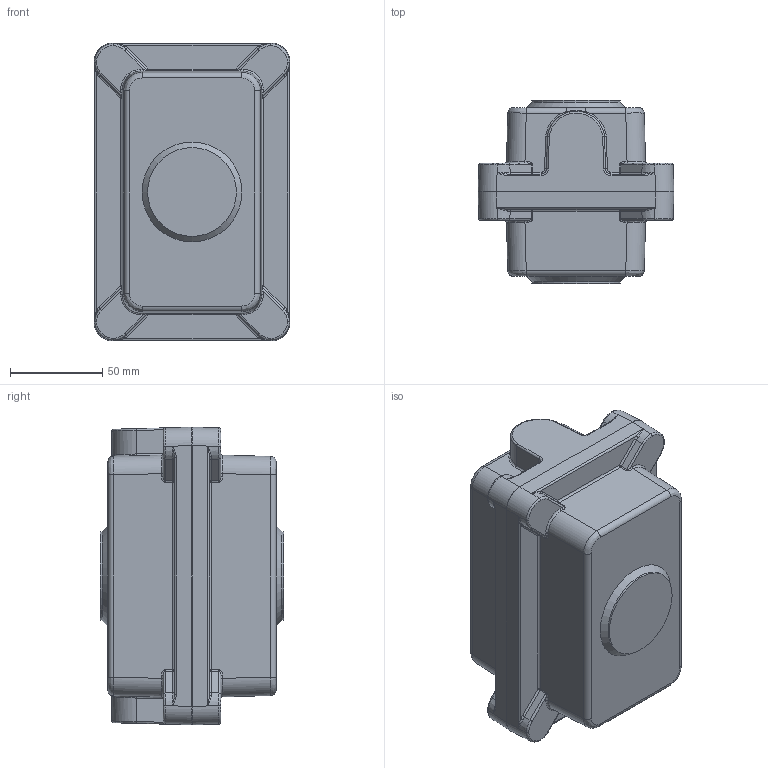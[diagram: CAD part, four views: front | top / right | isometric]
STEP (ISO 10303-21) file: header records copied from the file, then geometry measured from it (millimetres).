
FILE_DESCRIPTION(('STEP AP203'), '1');
FILE_NAME('栖闉罻_扻豵鵨 珃2-01', '', ('UNSPECIFIED'), ('UNSPECIFIED'), 'C3D Converter', 'C3D Toolkit', '');
FILE_SCHEMA(('CONFIG_CONTROL_DESIGN'));
Length unit declared in the file: millimetre
Products named in the file (3): ПУ2-01 (РЧЗ); ПУ2-02 (РЧЗ)
Assembly tree (2 placements, depth 2):
  (unnamed)
    ПУ2-01 (РЧЗ)
    ПУ2-02 (РЧЗ)
Bounding box: 105.9 x 99 x 160.95 mm (x, y, z)
Volume: 560128.5 mm3; surface area: 133391 mm2
Topology: 2 solids, 2 shells, 481 faces, 1142 edges, 637 vertices
Faces by surface type: cylinder 188, bspline 142, plane 98, torus 34, cone 19
Full cylindrical faces by diameter (mm): 48 x2
Entity records: 39156 total; most frequent: CARTESIAN_POINT 25375, ORIENTED_EDGE 2196, DIRECTION 1732, EDGE_CURVE 1098, AXIS2_PLACEMENT_3D 654, VERTEX_POINT 637, EDGE_LOOP 497, FACE_BOUND 489
